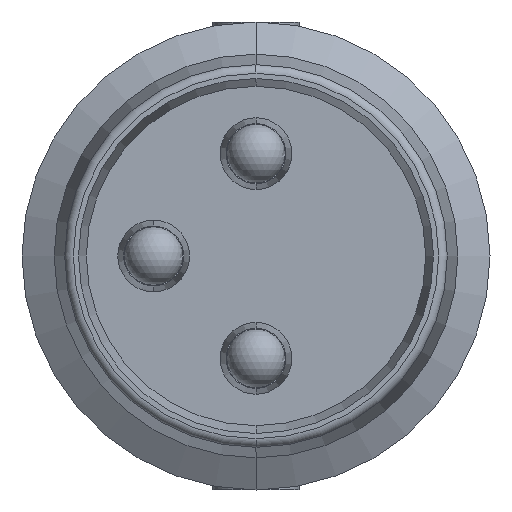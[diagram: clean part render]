
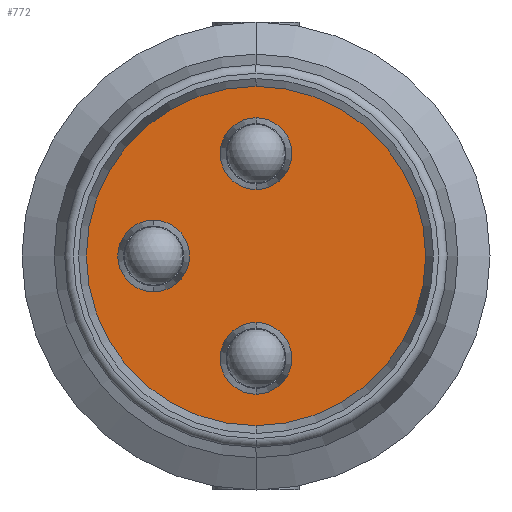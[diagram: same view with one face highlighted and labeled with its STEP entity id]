
A CAD part, front view. The second image highlights one B-rep face of the part: STEP entity #772.
In plain terms, the highlighted planar face has unit normal (0, -1, 0).
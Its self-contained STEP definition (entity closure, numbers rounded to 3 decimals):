
#772=ADVANCED_FACE('',(#1676,#1677,#1678,#1679),#1680,.T.);
#1676=FACE_BOUND('',#2865,.T.);
#1677=FACE_OUTER_BOUND('',#2866,.T.);
#1678=FACE_BOUND('',#2867,.T.);
#1679=FACE_BOUND('',#2868,.T.);
#1680=PLANE('',#2869);
#2865=EDGE_LOOP('',(#4878,#4879));
#2866=EDGE_LOOP('',(#4880,#4881,#4882));
#2867=EDGE_LOOP('',(#4883,#4884));
#2868=EDGE_LOOP('',(#4885,#4886));
#2869=AXIS2_PLACEMENT_3D('',#4887,#4888,#4889);
#4878=ORIENTED_EDGE('',*,*,#6800,.T.);
#4879=ORIENTED_EDGE('',*,*,#6249,.T.);
#4880=ORIENTED_EDGE('',*,*,#6489,.T.);
#4881=ORIENTED_EDGE('',*,*,#6448,.T.);
#4882=ORIENTED_EDGE('',*,*,#6490,.T.);
#4883=ORIENTED_EDGE('',*,*,#6801,.T.);
#4884=ORIENTED_EDGE('',*,*,#6734,.T.);
#4885=ORIENTED_EDGE('',*,*,#6078,.T.);
#4886=ORIENTED_EDGE('',*,*,#6552,.T.);
#4887=CARTESIAN_POINT('',(0.,-19.,0.0));
#4888=DIRECTION('',(0.,-1.0,0.0));
#4889=DIRECTION('',(-1.0,0.,0.0));
#6078=EDGE_CURVE('',#7148,#7152,#7154,.T.);
#6249=EDGE_CURVE('',#7451,#7449,#7452,.T.);
#6448=EDGE_CURVE('',#7734,#7739,#7741,.T.);
#6489=EDGE_CURVE('',#7792,#7734,#7793,.T.);
#6490=EDGE_CURVE('',#7739,#7792,#7794,.T.);
#6552=EDGE_CURVE('',#7152,#7148,#7885,.T.);
#6734=EDGE_CURVE('',#8122,#8120,#8123,.T.);
#6800=EDGE_CURVE('',#7449,#7451,#8203,.T.);
#6801=EDGE_CURVE('',#8120,#8122,#8204,.T.);
#7148=VERTEX_POINT('',#8628);
#7152=VERTEX_POINT('',#8633);
#7154=CIRCLE('',#8636,0.613);
#7449=VERTEX_POINT('',#9182);
#7451=VERTEX_POINT('',#9185);
#7452=CIRCLE('',#9186,0.613);
#7734=VERTEX_POINT('',#9599);
#7739=VERTEX_POINT('',#9605);
#7741=CIRCLE('',#9608,2.9);
#7792=VERTEX_POINT('',#9753);
#7793=CIRCLE('',#9754,2.9);
#7794=CIRCLE('',#9755,2.9);
#7885=CIRCLE('',#9914,0.613);
#8120=VERTEX_POINT('',#10233);
#8122=VERTEX_POINT('',#10236);
#8123=CIRCLE('',#10237,0.613);
#8203=CIRCLE('',#10339,0.613);
#8204=CIRCLE('',#10340,0.613);
#8628=CARTESIAN_POINT('',(0.,-19.,1.137));
#8633=CARTESIAN_POINT('',(0.,-19.,2.363));
#8636=AXIS2_PLACEMENT_3D('',#10899,#10900,#10901);
#9182=CARTESIAN_POINT('',(0.,-19.,-2.363));
#9185=CARTESIAN_POINT('',(0.,-19.,-1.138));
#9186=AXIS2_PLACEMENT_3D('',#11157,#11158,#11159);
#9599=CARTESIAN_POINT('',(0.,-19.,-2.9));
#9605=CARTESIAN_POINT('',(0.,-19.,2.9));
#9608=AXIS2_PLACEMENT_3D('',#11461,#11462,#11463);
#9753=CARTESIAN_POINT('',(-2.9,-19.,0.0));
#9754=AXIS2_PLACEMENT_3D('',#11514,#11515,#11516);
#9755=AXIS2_PLACEMENT_3D('',#11517,#11518,#11519);
#9914=AXIS2_PLACEMENT_3D('',#11612,#11613,#11614);
#10233=CARTESIAN_POINT('',(-1.75,-19.,-0.613));
#10236=CARTESIAN_POINT('',(-1.75,-19.,0.612));
#10237=AXIS2_PLACEMENT_3D('',#11865,#11866,#11867);
#10339=AXIS2_PLACEMENT_3D('',#11953,#11954,#11955);
#10340=AXIS2_PLACEMENT_3D('',#11956,#11957,#11958);
#10899=CARTESIAN_POINT('',(0.,-19.,1.75));
#10900=DIRECTION('',(0.,1.0,0.0));
#10901=DIRECTION('',(0.0,0.0,-1.0));
#11157=CARTESIAN_POINT('',(0.,-19.,-1.75));
#11158=DIRECTION('',(0.,1.0,0.0));
#11159=DIRECTION('',(0.0,0.0,-1.0));
#11461=CARTESIAN_POINT('',(0.,-19.,0.0));
#11462=DIRECTION('',(0.,-1.0,0.0));
#11463=DIRECTION('',(-1.0,0.,0.));
#11514=CARTESIAN_POINT('',(0.,-19.,0.0));
#11515=DIRECTION('',(0.,-1.0,0.0));
#11516=DIRECTION('',(-1.0,0.,0.));
#11517=CARTESIAN_POINT('',(0.,-19.,0.0));
#11518=DIRECTION('',(0.,-1.0,0.0));
#11519=DIRECTION('',(-1.0,0.,0.));
#11612=CARTESIAN_POINT('',(0.,-19.,1.75));
#11613=DIRECTION('',(0.,1.0,0.0));
#11614=DIRECTION('',(0.0,0.0,-1.0));
#11865=CARTESIAN_POINT('',(-1.75,-19.,0.));
#11866=DIRECTION('',(0.,1.0,0.0));
#11867=DIRECTION('',(0.0,0.0,-1.0));
#11953=CARTESIAN_POINT('',(0.,-19.,-1.75));
#11954=DIRECTION('',(0.,1.0,0.0));
#11955=DIRECTION('',(0.0,0.0,-1.0));
#11956=CARTESIAN_POINT('',(-1.75,-19.,0.));
#11957=DIRECTION('',(0.,1.0,0.0));
#11958=DIRECTION('',(0.0,0.0,-1.0));
